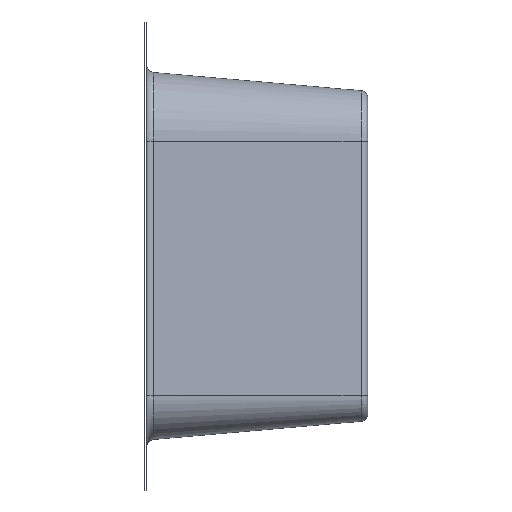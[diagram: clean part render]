
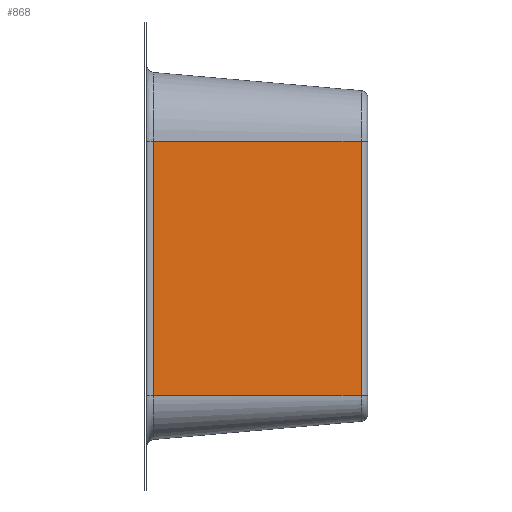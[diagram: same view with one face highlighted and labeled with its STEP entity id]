
A CAD part, left-side view. The second image highlights one B-rep face of the part: STEP entity #868.
In plain terms, the highlighted free-form (B-spline) face has degree [5, 1] with [6, 2] control points.
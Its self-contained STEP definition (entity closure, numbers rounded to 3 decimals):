
#273=CARTESIAN_POINT('Vertex',(-0.24,2.739,112.)) ;
#276=CARTESIAN_POINT('Line Origine',(-0.24,2.739,66.783)) ;
#280=CARTESIAN_POINT('Vertex',(-0.24,2.739,10.)) ;
#822=CARTESIAN_POINT('Control Point',(-7.757,88.661,10.)) ;
#823=CARTESIAN_POINT('Control Point',(0.,0.,10.)) ;
#824=CARTESIAN_POINT('Control Point',(-7.757,88.661,30.4)) ;
#825=CARTESIAN_POINT('Control Point',(0.,0.,30.4)) ;
#826=CARTESIAN_POINT('Control Point',(-7.757,88.661,50.8)) ;
#827=CARTESIAN_POINT('Control Point',(0.,0.,50.8)) ;
#828=CARTESIAN_POINT('Control Point',(-7.757,88.661,71.2)) ;
#829=CARTESIAN_POINT('Control Point',(0.,0.,71.2)) ;
#830=CARTESIAN_POINT('Control Point',(-7.757,88.661,91.6)) ;
#831=CARTESIAN_POINT('Control Point',(0.,0.,91.6)) ;
#832=CARTESIAN_POINT('Control Point',(-7.757,88.661,112.)) ;
#833=CARTESIAN_POINT('Control Point',(0.,0.,112.)) ;
#835=CARTESIAN_POINT('Control Point',(-7.517,85.923,112.)) ;
#836=CARTESIAN_POINT('Control Point',(-6.062,69.286,112.)) ;
#837=CARTESIAN_POINT('Control Point',(-4.606,52.649,112.)) ;
#838=CARTESIAN_POINT('Control Point',(-3.151,36.012,112.)) ;
#839=CARTESIAN_POINT('Control Point',(-1.695,19.375,112.)) ;
#840=CARTESIAN_POINT('Control Point',(-0.24,2.739,112.)) ;
#841=CARTESIAN_POINT('Vertex',(-7.517,85.923,112.)) ;
#845=CARTESIAN_POINT('Control Point',(-7.517,85.923,10.)) ;
#846=CARTESIAN_POINT('Control Point',(-7.517,85.923,30.4)) ;
#847=CARTESIAN_POINT('Control Point',(-7.517,85.923,50.8)) ;
#848=CARTESIAN_POINT('Control Point',(-7.517,85.923,71.2)) ;
#849=CARTESIAN_POINT('Control Point',(-7.517,85.923,91.6)) ;
#850=CARTESIAN_POINT('Control Point',(-7.517,85.923,112.)) ;
#851=CARTESIAN_POINT('Vertex',(-7.517,85.923,10.)) ;
#855=CARTESIAN_POINT('Control Point',(-7.517,85.923,10.)) ;
#856=CARTESIAN_POINT('Control Point',(-6.062,69.286,10.)) ;
#857=CARTESIAN_POINT('Control Point',(-4.606,52.649,10.)) ;
#858=CARTESIAN_POINT('Control Point',(-3.151,36.012,10.)) ;
#859=CARTESIAN_POINT('Control Point',(-1.695,19.375,10.)) ;
#860=CARTESIAN_POINT('Control Point',(-0.24,2.739,10.)) ;
#277=DIRECTION('Vector Direction',(0.,0.,1.)) ;
#863=ORIENTED_EDGE('',*,*,#282,.F.) ;
#864=ORIENTED_EDGE('',*,*,#843,.F.) ;
#865=ORIENTED_EDGE('',*,*,#853,.F.) ;
#866=ORIENTED_EDGE('',*,*,#861,.T.) ;
#278=VECTOR('Line Direction',#277,1.) ;
#868=ADVANCED_FACE('base',(#867),#821,.F.) ;
#834=B_SPLINE_CURVE_WITH_KNOTS('',5,(#835,#836,#837,#838,#839,#840),.UNSPECIFIED.,.F.,.U.,(6,6),(2.749,86.251),.UNSPECIFIED.) ;
#844=B_SPLINE_CURVE_WITH_KNOTS('',5,(#845,#846,#847,#848,#849,#850),.UNSPECIFIED.,.F.,.U.,(6,6),(0.,102.),.UNSPECIFIED.) ;
#854=B_SPLINE_CURVE_WITH_KNOTS('',5,(#855,#856,#857,#858,#859,#860),.UNSPECIFIED.,.F.,.U.,(6,6),(2.749,86.251),.UNSPECIFIED.) ;
#821=B_SPLINE_SURFACE_WITH_KNOTS('',5,1,((#822,#823),(#824,#825),(#826,#827),(#828,#829),(#830,#831),(#832,#833)),.UNSPECIFIED.,.F.,.F.,.U.,(6,6),(2,2),(0.,102.),(0.,89.),.UNSPECIFIED.) ;
#282=EDGE_CURVE('',#274,#281,#279,.F.) ;
#843=EDGE_CURVE('',#842,#274,#834,.T.) ;
#853=EDGE_CURVE('',#852,#842,#844,.T.) ;
#861=EDGE_CURVE('',#852,#281,#854,.T.) ;
#862=EDGE_LOOP('',(#863,#864,#865,#866)) ;
#867=FACE_OUTER_BOUND('',#862,.T.) ;
#279=LINE('Line',#276,#278) ;
#274=VERTEX_POINT('',#273) ;
#281=VERTEX_POINT('',#280) ;
#842=VERTEX_POINT('',#841) ;
#852=VERTEX_POINT('',#851) ;
